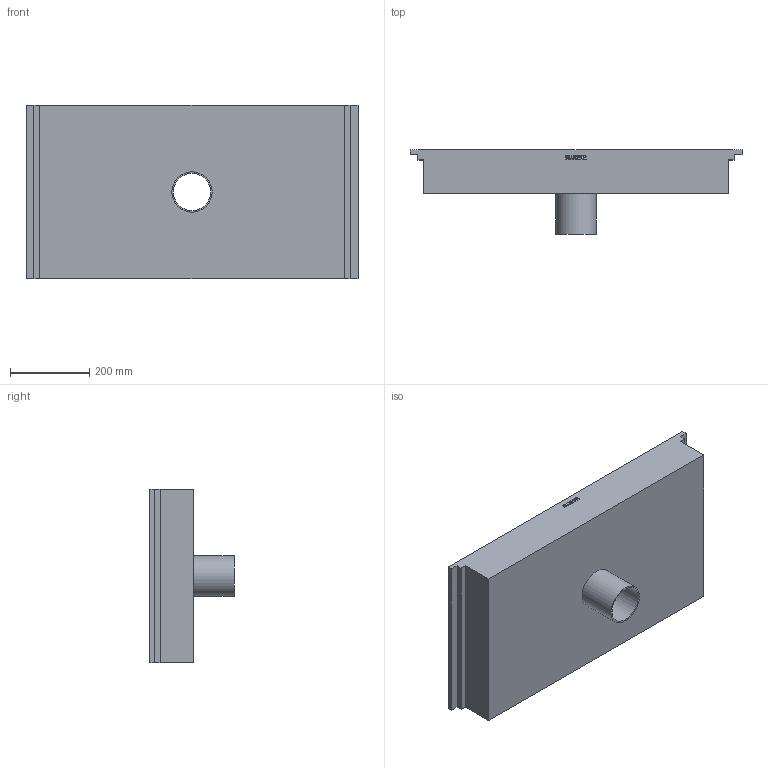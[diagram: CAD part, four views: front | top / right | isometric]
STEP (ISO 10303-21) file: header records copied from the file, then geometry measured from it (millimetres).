
FILE_DESCRIPTION((''),'2;1');
FILE_NAME('I:\WATTS\3D_CAD\3D_CAD_Models\Blucher_Drains\BKC_KitchenChannels\BKC-200\WebsiteFiles\3D\STEP\BKC-204-4.stp','2009-11-30T08:52:14',('menesek'),(''),'Autodesk Inventor 2010','Autodesk Inventor 2010','');
FILE_SCHEMA(('AUTOMOTIVE_DESIGN { 1 0 10303 214 1 1 1 1 }'));
Length unit declared in the file: inch
Products named in the file (1): BKC-204-4
Bounding box: 837 x 213 x 437 mm (x, y, z)
Volume: 5316608.5 mm3; surface area: 1295985.4 mm2
Topology: 1 solids, 1 shells, 142 faces, 385 edges, 257 vertices
Faces by surface type: plane 95, bspline 45, cylinder 2
Full cylindrical faces by diameter (mm): 93.6 x1, 101.6 x1
Entity records: 4799 total; most frequent: CARTESIAN_POINT 1501, ORIENTED_EDGE 764, DIRECTION 492, EDGE_CURVE 382, VECTOR 288, LINE 288, VERTEX_POINT 256, EDGE_LOOP 158
